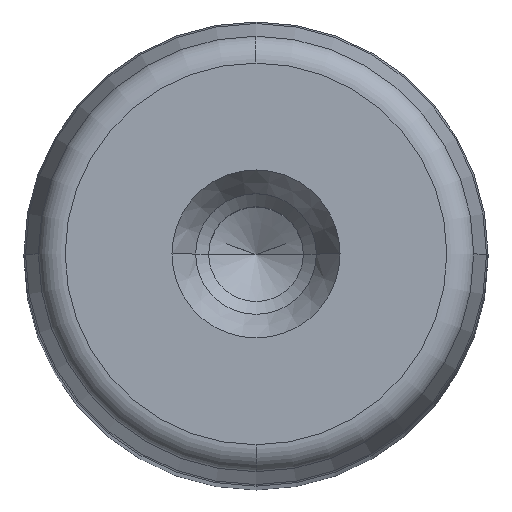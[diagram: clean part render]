
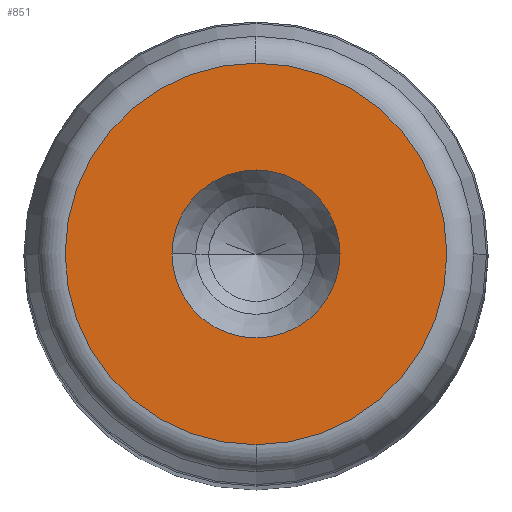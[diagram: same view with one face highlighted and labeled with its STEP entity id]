
A CAD part, top view. The second image highlights one B-rep face of the part: STEP entity #851.
In plain terms, the highlighted planar face has unit normal (0, 0, 1) as drawn and (0, 1, 0) by its records, which use the part's own axes.
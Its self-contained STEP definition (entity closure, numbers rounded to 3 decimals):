
#281=CARTESIAN_POINT('',(9.05,250.0,0.0));
#282=VERTEX_POINT('',#281);
#289=CARTESIAN_POINT('',(-9.05,250.0,0.));
#290=VERTEX_POINT('',#289);
#291=CARTESIAN_POINT('',(0.0,250.0,0.0));
#292=DIRECTION('',(0.0,1.0,0.0));
#293=DIRECTION('',(1.0,0.0,0.0));
#294=AXIS2_PLACEMENT_3D('',#291,#292,#293);
#295=CIRCLE('',#294,9.05);
#296=EDGE_CURVE('',#282,#290,#295,.T.);
#313=CARTESIAN_POINT('',(0.0,250.0,20.554));
#314=VERTEX_POINT('',#313);
#324=CARTESIAN_POINT('',(0.,250.0,-20.554));
#325=VERTEX_POINT('',#324);
#326=CARTESIAN_POINT('',(0.0,250.0,0.0));
#327=DIRECTION('',(0.0,1.0,0.0));
#328=DIRECTION('',(1.0,0.0,0.0));
#329=AXIS2_PLACEMENT_3D('',#326,#327,#328);
#330=CIRCLE('',#329,20.554);
#331=EDGE_CURVE('',#325,#314,#330,.T.);
#812=CARTESIAN_POINT('',(20.554,250.0,0.0));
#813=VERTEX_POINT('',#812);
#814=CARTESIAN_POINT('',(0.0,250.0,0.0));
#815=DIRECTION('',(0.0,1.0,0.0));
#816=DIRECTION('',(1.0,0.0,0.0));
#817=AXIS2_PLACEMENT_3D('',#814,#815,#816);
#818=CIRCLE('',#817,20.554);
#819=EDGE_CURVE('',#813,#325,#818,.T.);
#821=CARTESIAN_POINT('',(0.0,250.0,0.0));
#822=DIRECTION('',(0.0,1.0,0.0));
#823=DIRECTION('',(1.0,0.0,0.0));
#824=AXIS2_PLACEMENT_3D('',#821,#822,#823);
#825=CIRCLE('',#824,20.554);
#826=EDGE_CURVE('',#314,#813,#825,.T.);
#831=CARTESIAN_POINT('',(-22.61,250.0,-22.61));
#832=DIRECTION('',(0.0,1.0,0.0));
#833=DIRECTION('',(0.0,0.0,1.0));
#834=AXIS2_PLACEMENT_3D('',#831,#832,#833);
#835=PLANE('',#834);
#836=ORIENTED_EDGE('',*,*,#819,.T.);
#837=ORIENTED_EDGE('',*,*,#331,.T.);
#838=ORIENTED_EDGE('',*,*,#826,.T.);
#839=EDGE_LOOP('',(#836,#837,#838));
#840=FACE_OUTER_BOUND('',#839,.T.);
#841=ORIENTED_EDGE('',*,*,#296,.F.);
#842=CARTESIAN_POINT('',(0.0,250.0,0.0));
#843=DIRECTION('',(0.0,1.0,0.0));
#844=DIRECTION('',(1.0,0.0,0.0));
#845=AXIS2_PLACEMENT_3D('',#842,#843,#844);
#846=CIRCLE('',#845,9.05);
#847=EDGE_CURVE('',#290,#282,#846,.T.);
#848=ORIENTED_EDGE('',*,*,#847,.F.);
#849=EDGE_LOOP('',(#841,#848));
#850=FACE_BOUND('',#849,.T.);
#851=ADVANCED_FACE('',(#840,#850),#835,.T.);
